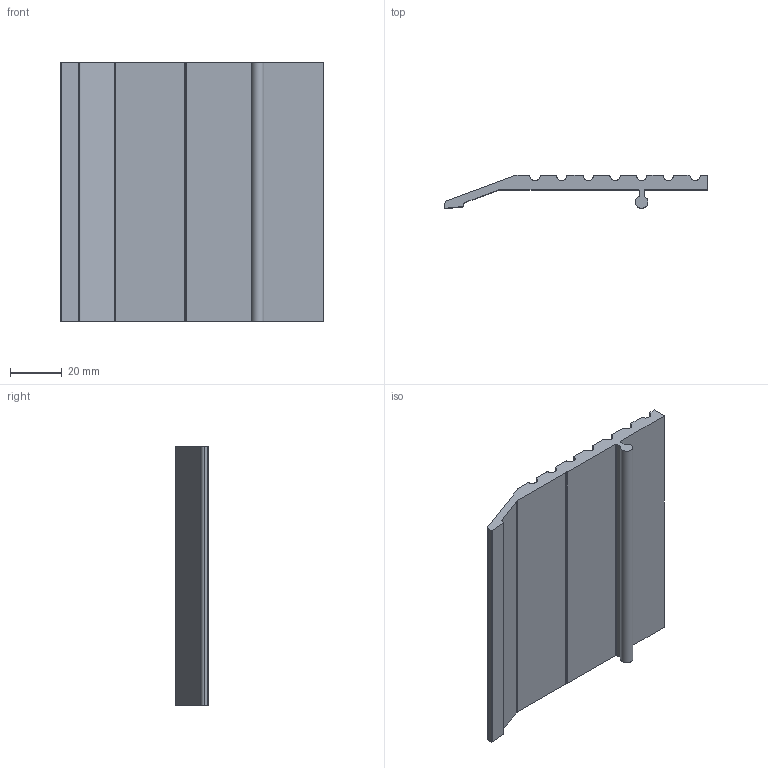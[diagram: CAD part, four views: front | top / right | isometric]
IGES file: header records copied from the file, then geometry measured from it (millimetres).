
Global section: file name: No Iges File Name specified; native system: Autodesk Inventor 2012; preprocessor: AutoDesk Inventor Iges Exporter R2012; author: anna.b; date: 20130718.121719; units: millimetre
Bounding box: 101.6 x 12.7 x 100 mm (x, y, z)
Volume: 48920.1 mm3; surface area: 25430.5 mm2
Topology: 1 solids, 1 shells, 56 faces, 162 edges, 108 vertices
Faces by surface type: plane 22, cylinder 19, revolution 15
